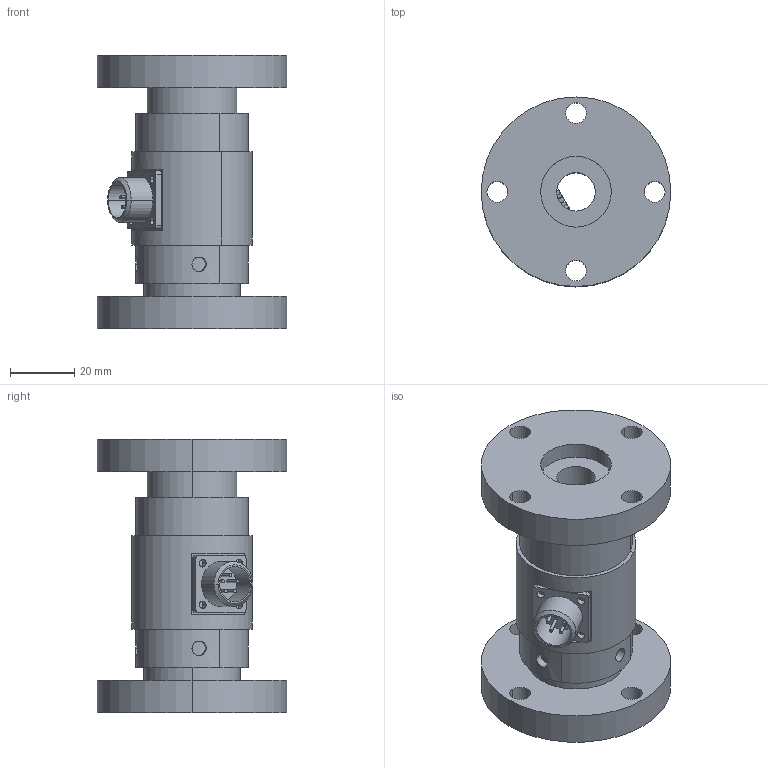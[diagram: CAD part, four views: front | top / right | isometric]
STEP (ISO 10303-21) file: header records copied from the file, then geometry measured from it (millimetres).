
FILE_DESCRIPTION (( 'STEP AP214' ), '1' );
FILE_NAME ('WTQ-98A俋倛芞.STEP', '2019-10-18T02:22:28', ( '' ), ( '' ), 'SwSTEP 2.0', 'SolidWorks 2014', '' );
FILE_SCHEMA (( 'AUTOMOTIVE_DESIGN' ));
Length unit declared in the file: millimetre
Products named in the file (4): 瑤脣-聾撻; WTQ-98A俋褲; WTQ-98A粟俶极; WTQ-98A俋倛芞
Assembly tree (3 placements, depth 2):
  WTQ-98A俋倛芞
    WTQ-98A粟俶极
    WTQ-98A俋褲
    瑤脣-聾撻
Bounding box: 59 x 59 x 85 mm (x, y, z)
Volume: 101549.7 mm3; surface area: 38195.4 mm2
Topology: 4 solids, 4 shells, 139 faces, 328 edges, 218 vertices
Faces by surface type: cylinder 94, plane 43, cone 2
Entity records: 4837 total; most frequent: CARTESIAN_POINT 1227, DIRECTION 774, ORIENTED_EDGE 656, EDGE_CURVE 328, AXIS2_PLACEMENT_3D 319, VERTEX_POINT 218, EDGE_LOOP 196, CIRCLE 174
